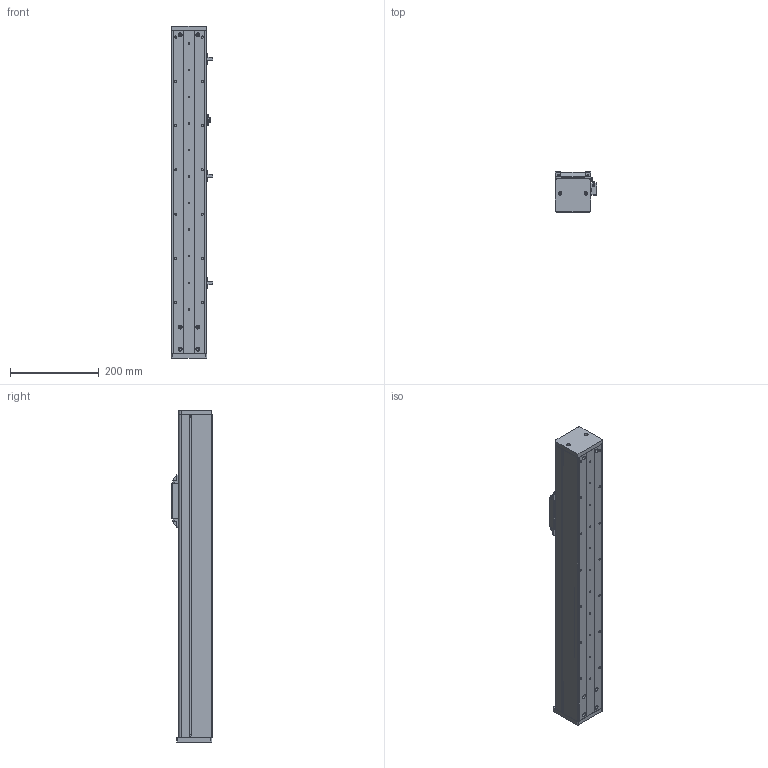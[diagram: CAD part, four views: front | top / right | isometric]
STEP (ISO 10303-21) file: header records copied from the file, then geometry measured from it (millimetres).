
FILE_DESCRIPTION (( 'STEP AP214' ), '1' );
FILE_NAME ('CF80-C-500-FW.STEP', '2020-01-15T07:50:37', ( '微软用户' ), ( '微软中国' ), 'SwSTEP 2.0', 'SolidWorks 2016', '' );
FILE_SCHEMA (( 'AUTOMOTIVE_DESIGN' ));
Length unit declared in the file: millimetre
Products named in the file (15): CF80詩湍-500; CF80盓傅釱; CF80-祭輛57萇儂假蚾啣; 賑雄輸裔啣; CFN80嘐隅釱; CF80賑雄輸; EGR15絳寢-500; EGW15CA賑輸; CF80墙板-500; CF80菁釱-500; CF80-C-500-FW; 嫖萇羲壽; 壽萇羲壽覜茼え; CF80詩湍揤啣2; CF80耜啣
Assembly tree (18 placements, depth 2):
  CF80-C-500-FW
    CF80菁釱-500
    CF80墙板-500  x2
    EGW15CA賑輸
    EGR15絳寢-500
    CF80賑雄輸
    CFN80嘐隅釱
    賑雄輸裔啣
    CF80-祭輛57萇儂假蚾啣
    CF80盓傅釱
    CF80詩湍-500
    CF80耜啣
    CF80詩湍揤啣2  x2
    壽萇羲壽覜茼え
    嫖萇羲壽  x3
Bounding box: 93.5 x 91 x 750 mm (x, y, z)
Volume: 1716534.8 mm3; surface area: 740846.4 mm2
Topology: 18 solids, 18 shells, 835 faces, 2378 edges, 1566 vertices
Faces by surface type: plane 421, cylinder 398, cone 16
Entity records: 27339 total; most frequent: CARTESIAN_POINT 5484, DIRECTION 4233, ORIENTED_EDGE 4170, EDGE_CURVE 2085, AXIS2_PLACEMENT_3D 1515, VERTEX_POINT 1380, VECTOR 1203, LINE 1203
